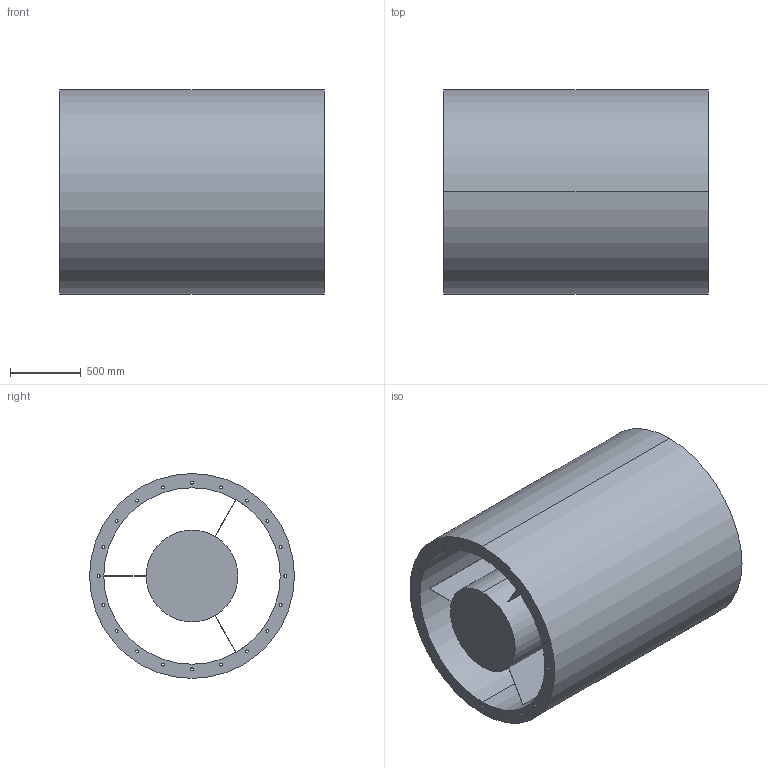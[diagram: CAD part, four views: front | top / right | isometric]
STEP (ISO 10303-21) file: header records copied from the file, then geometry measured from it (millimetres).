
FILE_DESCRIPTION(('STEP AP214'),'1');
FILE_NAME('accessory_5211816200.stp','2017-10-09T11:37:08',('TraceParts'),('TraceParts S.A.'),'Spatial InterOp 3D',' ',' ');
FILE_SCHEMA(('automotive_design'));
Length unit declared in the file: millimetre
Products named in the file (1): accessory_5211816200
Bounding box: 1875 x 1450 x 1450 mm (x, y, z)
Volume: 1340943093.6 mm3; surface area: 25504726.5 mm2
Topology: 1 solids, 1 shells, 64 faces, 179 edges, 119 vertices
Faces by surface type: cylinder 46, plane 16, torus 2
Entity records: 2744 total; most frequent: DIRECTION 418, CARTESIAN_POINT 363, ORIENTED_EDGE 358, EDGE_CURVE 179, AXIS2_PLACEMENT_3D 174, VERTEX_POINT 119, EDGE_LOOP 112, CIRCLE 109
